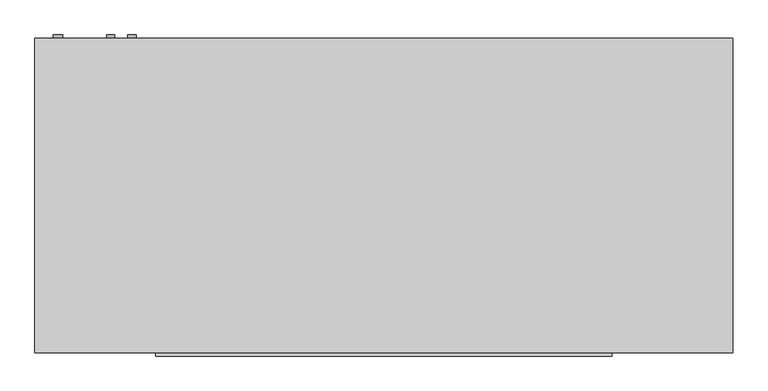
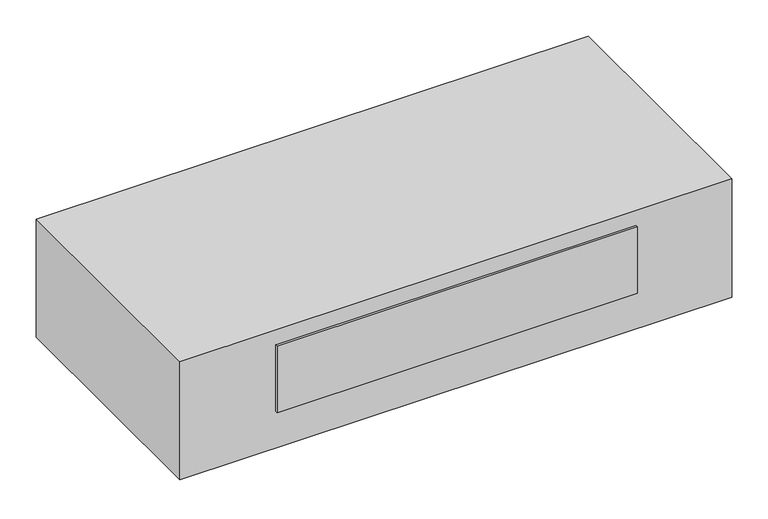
"""IFC4 building model written with IfcOpenShell, lengths in millimetres: proxy geometry, Exposed_Horizontal_Fan_Coil_Unit_-_42CGB_-_CARRIER_-_2-Pipe_Cool-EHeat_FS-BR_LH_2022 : Size 06 - 277v/60Hz/1Ph - 4 Row 6.0kW."""

import ifcopenshell
import ifcopenshell.guid

model = None  # the IFC model being written
_history = None  # IfcOwnerHistory: only IFC2X3 demands one
_inside = {}  # id of a spatial element -> (the spatial element, [elements in it])
_under = {}  # id of a project, library or spatial element -> (it, [spatial elements below it])
_declared = {}  # id of a project -> (the project, [libraries it declares])
_typed = {}  # id of a type object -> (the type object, [elements of that type])
_made_of = {}  # id of a material, layer set ... -> (it, [elements and type objects made of it])


def new_model(schema):
    """Start an empty IFC model of exactly this schema.

    Asked for "IFC4X3", IfcOpenShell would pick the latest addendum, in which some entities
    have other attributes; the version numbers below select the first issue.
    IFC2X3 requires an IfcOwnerHistory on every rooted entity: one is made here for all.
    """
    global model, _history
    if schema == "IFC4X3":
        model = ifcopenshell.file(schema_version=(4, 3, 0, 0))
    else:
        model = ifcopenshell.file(schema=schema)
    _inside.clear()
    _under.clear()
    _declared.clear()
    _typed.clear()
    _made_of.clear()
    _history = None
    if model.schema == "IFC2X3":
        org = make("IfcOrganization", Name="unknown")
        user = make(
            "IfcPersonAndOrganization",
            ThePerson=make("IfcPerson", FamilyName="unknown"),
            TheOrganization=org,
        )
        app = make(
            "IfcApplication",
            ApplicationDeveloper=org,
            Version="unknown",
            ApplicationFullName="unknown",
            ApplicationIdentifier="unknown",
        )
        _history = make(
            "IfcOwnerHistory",
            OwningUser=user,
            OwningApplication=app,
            ChangeAction="ADDED",
            CreationDate=0,
        )
    return model


def make(cls, **values):
    """One entity of the class cls with the attributes given. An attribute that is None is left unset."""
    return model.create_entity(
        cls, **{name: value for name, value in values.items() if value is not None}
    )


def rooted(cls, **values):
    """An entity with a GlobalId (a new one), such as an element, a storey or a relation."""
    return make(cls, GlobalId=ifcopenshell.guid.new(), OwnerHistory=_history, **values)


def si_unit(unit_type, name, prefix=None):
    """IfcSIUnit, for example si_unit("LENGTHUNIT", "METRE", prefix="MILLI")."""
    return make("IfcSIUnit", UnitType=unit_type, Prefix=prefix, Name=name)


def assignment(units):
    """IfcUnitAssignment: the units of a project."""
    return None if units is None else make("IfcUnitAssignment", Units=units)


def point(xyz):
    """IfcCartesianPoint."""
    return None if xyz is None else make("IfcCartesianPoint", Coordinates=xyz)


def direction(xyz):
    """IfcDirection."""
    return None if xyz is None else make("IfcDirection", DirectionRatios=xyz)


def frame(location, z_axis=None, x_axis=None):
    """IfcAxis2Placement3D, a coordinate frame: its origin and axes. An axis left out is left unset."""
    return make(
        "IfcAxis2Placement3D",
        Location=point(location),
        Axis=direction(z_axis),
        RefDirection=direction(x_axis),
    )


def frame_2d(location, x_axis=None):
    """IfcAxis2Placement2D, a coordinate frame in the plane: its origin and x axis."""
    return make(
        "IfcAxis2Placement2D", Location=point(location), RefDirection=direction(x_axis)
    )


def origin():
    """The frame at (0, 0, 0) with its axes left unset."""
    return frame((0.0, 0.0, 0.0))


def place(relative_to, where):
    """IfcLocalPlacement: puts the frame where relative to a parent placement (None: the world)."""
    return make(
        "IfcLocalPlacement", PlacementRelTo=relative_to, RelativePlacement=where
    )


def context(
    kind, dimensions, precision=None, world=None, true_north=None, identifier=None
):
    """IfcGeometricRepresentationContext, for example the 3D "Model" context."""
    return make(
        "IfcGeometricRepresentationContext",
        ContextIdentifier=identifier,
        ContextType=kind,
        CoordinateSpaceDimension=dimensions,
        Precision=precision,
        WorldCoordinateSystem=world,
        TrueNorth=true_north,
    )


def project(units=None, contexts=None):
    """IfcProject with its units and contexts."""
    return rooted(
        "IfcProject",
        Name="project",
        RepresentationContexts=contexts,
        UnitsInContext=assignment(units),
    )


def spatial(cls, under=None, at=None, **own):
    """A site, building, storey or space (cls), placed at a placement, below another one or the project."""
    s = rooted(cls, ObjectPlacement=at, **own)
    if under is not None:
        _under.setdefault(under.id(), (under, []))[1].append(s)
    return s


def polyline(points):
    """IfcPolyline through the points."""
    return make("IfcPolyline", Points=[point(p) for p in points])


def circle_curve(where, radius):
    """IfcCircle in the frame where."""
    return make("IfcCircle", Position=where, Radius=radius)


def trimmed(basis, trim1, trim2, sense, master):
    """IfcTrimmedCurve: the piece of a basis curve between two trims."""
    return make(
        "IfcTrimmedCurve",
        BasisCurve=basis,
        Trim1=trim1,
        Trim2=trim2,
        SenseAgreement=sense,
        MasterRepresentation=master,
    )


def segment(curve, same_sense, transition):
    """IfcCompositeCurveSegment."""
    return make(
        "IfcCompositeCurveSegment",
        Transition=transition,
        SameSense=same_sense,
        ParentCurve=curve,
    )


def composite_curve(segments, self_intersect=None):
    """IfcCompositeCurve: segments joined end to end."""
    return make("IfcCompositeCurve", Segments=segments, SelfIntersect=self_intersect)


def outline(outer, holes=None, kind="AREA"):
    """IfcArbitraryClosedProfileDef: a profile drawn as a closed curve; with holes, ...WithVoids."""
    if holes is None:
        return make("IfcArbitraryClosedProfileDef", ProfileType=kind, OuterCurve=outer)
    return make(
        "IfcArbitraryProfileDefWithVoids",
        ProfileType=kind,
        OuterCurve=outer,
        InnerCurves=holes,
    )


def extrude(swept, where, along, depth):
    """IfcExtrudedAreaSolid: the profile swept, set in the frame where, extruded along a direction by depth."""
    return make(
        "IfcExtrudedAreaSolid",
        SweptArea=swept,
        Position=where,
        ExtrudedDirection=direction(along),
        Depth=depth,
    )


def shape(context_of_items, identifier, shape_type, items):
    """IfcShapeRepresentation: the items that make up one representation, for example the "Body"."""
    return make(
        "IfcShapeRepresentation",
        ContextOfItems=context_of_items,
        RepresentationIdentifier=identifier,
        RepresentationType=shape_type,
        Items=items,
    )


def source(mapping_origin, context_of_items, identifier, shape_type, items):
    """IfcRepresentationMap: a shape defined once, which mapped items show again and again."""
    return make(
        "IfcRepresentationMap",
        MappingOrigin=mapping_origin,
        MappedRepresentation=shape(context_of_items, identifier, shape_type, items),
    )


def transform(
    local_origin,
    x_axis=None,
    y_axis=None,
    z_axis=None,
    scale=None,
    scale2=None,
    scale3=None,
    uniform=True,
):
    """IfcCartesianTransformationOperator3D, or its non-uniform kind. x_axis, y_axis, z_axis: its Axis1, 2, 3."""
    if uniform:
        return make(
            "IfcCartesianTransformationOperator3D",
            Axis1=direction(x_axis),
            Axis2=direction(y_axis),
            LocalOrigin=point(local_origin),
            Scale=scale,
            Axis3=direction(z_axis),
        )
    return make(
        "IfcCartesianTransformationOperator3DnonUniform",
        Axis1=direction(x_axis),
        Axis2=direction(y_axis),
        LocalOrigin=point(local_origin),
        Scale=scale,
        Axis3=direction(z_axis),
        Scale2=scale2,
        Scale3=scale3,
    )


def mapped(mapping_source, mapping_target):
    """IfcMappedItem: shows the shape of a source again, moved by a transform."""
    return make(
        "IfcMappedItem", MappingSource=mapping_source, MappingTarget=mapping_target
    )


def made_of(thing, what):
    """Note that an element or type object is made of a material, layer set ...; save() writes the relation."""
    if what is not None:
        _made_of.setdefault(what.id(), (what, []))[1].append(thing)
    return thing


def element(
    cls,
    number,
    at=None,
    inside=None,
    cuts=None,
    type_object=None,
    material=None,
    context=None,
    identifier="Body",
    shape_type=None,
    held_by="IfcProductDefinitionShape",
    body=None,
    shapes=None,
    **own,
):
    """One element of the class cls, such as IfcWall. Its Tag is "e" and its number.

    at: its placement. inside: the storey or other place that contains it. cuts: it is an
    opening in that element (IfcRelVoidsElement). A single representation is given by context,
    identifier, shape_type and body (its items); several are given by shapes. held_by: the class
    of the entity that holds the representations. save() writes the other relations.
    """
    e = rooted(cls, Tag="e%d" % number, ObjectPlacement=at, **own)
    if body is not None:
        shapes = [shape(context, identifier, shape_type, body)]
    if shapes is not None:
        e.Representation = make(held_by, Representations=shapes)
    if inside is not None:
        _inside.setdefault(inside.id(), (inside, []))[1].append(e)
    if cuts is not None:
        rooted(
            "IfcRelVoidsElement", RelatingBuildingElement=cuts, RelatedOpeningElement=e
        )
    if type_object is not None:
        _typed.setdefault(type_object.id(), (type_object, []))[1].append(e)
    return made_of(e, material)


def aggregate(whole, parts):
    """IfcRelAggregates: a whole, such as a stair, and the parts it consists of."""
    return rooted("IfcRelAggregates", RelatingObject=whole, RelatedObjects=parts)


def save(model, path):
    """Write the relations noted so far, then the file.

    IfcRelAggregates (storeys below a building ...), IfcRelContainedInSpatialStructure (elements
    in a storey), IfcRelDefinesByType, IfcRelAssociatesMaterial and IfcRelDeclares: one each for
    every whole, place, type object, material and project.
    """
    for whole, parts in _under.values():
        aggregate(whole, parts)
    for where, things in _inside.values():
        rooted(
            "IfcRelContainedInSpatialStructure",
            RelatedElements=things,
            RelatingStructure=where,
        )
    for kind, things in _typed.values():
        rooted("IfcRelDefinesByType", RelatedObjects=things, RelatingType=kind)
    for what, things in _made_of.values():
        rooted("IfcRelAssociatesMaterial", RelatedObjects=things, RelatingMaterial=what)
    for by, libraries in _declared.values():
        rooted("IfcRelDeclares", RelatingContext=by, RelatedDefinitions=libraries)
    model.write(path)


def mechanical_equipment_0be943ba(model_context):
    return source(origin(), model_context, "Body", "SweptSolid", [
        extrude(outline(composite_curve([segment(trimmed(circle_curve(frame_2d((-60.325, -333.375)), 7.9375), [point((-60.325, -325.4375))], [point((-60.325, -341.3125))], False, "CARTESIAN"), True, "CONTINUOUS"), segment(trimmed(circle_curve(frame_2d((-60.325, -333.375)), 7.9375), [point((-60.325, -341.3125))], [point((-60.325, -325.4375))], False, "CARTESIAN"), True, "CONTINUOUS")], self_intersect=False)), frame((0.0, 65.0875, 0.0), z_axis=(0.0, 1.0, 0.0), x_axis=(0.0, 0.0, 1.0)), (0.0, 0.0, 1.0), 6.35),
        extrude(outline(composite_curve([segment(trimmed(circle_curve(frame_2d((-95.25, -374.65)), 7.9375), [point((-95.25, -366.7125))], [point((-95.25, -382.5875))], False, "CARTESIAN"), True, "CONTINUOUS"), segment(trimmed(circle_curve(frame_2d((-95.25, -374.65)), 7.9375), [point((-95.25, -382.5875))], [point((-95.25, -366.7125))], False, "CARTESIAN"), True, "CONTINUOUS")], self_intersect=False)), frame((0.0, 65.0875, 0.0), z_axis=(0.0, 1.0, 0.0), x_axis=(0.0, 0.0, 1.0)), (0.0, 0.0, 1.0), 6.35),
        extrude(outline(composite_curve([segment(trimmed(circle_curve(frame_2d((-260.35, -476.25)), 9.525), [point((-260.35, -466.725))], [point((-260.35, -485.775))], False, "CARTESIAN"), True, "CONTINUOUS"), segment(trimmed(circle_curve(frame_2d((-260.35, -476.25)), 9.525), [point((-260.35, -485.775))], [point((-260.35, -466.725))], False, "CARTESIAN"), True, "CONTINUOUS")], self_intersect=False)), frame((0.0, 65.0875, 0.0), z_axis=(0.0, 1.0, 0.0), x_axis=(0.0, 0.0, 1.0)), (0.0, 0.0, 1.0), 6.35),
        extrude(outline(polyline([(-520.7, 65.0875), (825.5, 65.0875), (825.5, -541.3375), (-520.7, -541.3375), (-520.7, 65.0875)])), frame((0.0, 0.0, -304.8), z_axis=(0.0, 0.0, 1.0), x_axis=(1.0, 0.0, 0.0)), (0.0, 0.0, 1.0), 304.8),
        extrude(outline(polyline([(592.1375, -547.6875), (-287.3375, -547.6875), (-287.3375, -541.3375), (592.1375, -541.3375), (592.1375, -547.6875)])), frame((0.0, 0.0, -209.55), z_axis=(0.0, 0.0, 1.0), x_axis=(1.0, 0.0, 0.0)), (0.0, 0.0, 1.0), 171.45),
        extrude(outline(polyline([(622.3, -11.1125), (622.3, -265.1125), (-317.5, -265.1125), (-317.5, -11.1125), (622.3, -11.1125)])), frame((0.0, 0.0, -311.15), z_axis=(0.0, 0.0, 1.0), x_axis=(1.0, 0.0, 0.0)), (0.0, 0.0, 1.0), 6.35),
    ])


if __name__ == "__main__":
    model = new_model("IFC4")
    model_context = context("Model", 3, world=origin())
    ifc_project = project(units=[si_unit("LENGTHUNIT", "METRE", prefix="MILLI")], contexts=[model_context])
    site = spatial("IfcSite", under=ifc_project)
    building = spatial("IfcBuilding", under=site)
    placement = place(None, origin())
    mechanical_equipment_shape = mechanical_equipment_0be943ba(model_context)
    element("IfcBuildingElementProxy", 1, Name="Exposed_Horizontal_Fan_Coil_Unit_-_42CGB_-_CARRIER_-_2-Pipe_Cool-EHeat_FS-BR_LH_2022 : Size 06 - 277v/60Hz/1Ph - 4 Row 6.0kW", ObjectType="Exposed_Horizontal_Fan_Coil_Unit_-_42CGB_-_CARRIER_-_2-Pipe_Cool-EHeat_FS-BR_LH_2022 : Size 06 - 277v/60Hz/1Ph - 4 Row 6.0kW", at=placement, inside=building, context=model_context, shape_type="MappedRepresentation", body=[
        mapped(mechanical_equipment_shape, transform((0.0, 0.0, 0.0), x_axis=(1.0, 0.0, 0.0), y_axis=(0.0, 1.0, 0.0), z_axis=(0.0, 0.0, 1.0))),
    ])
    save(model, "model.ifc")
